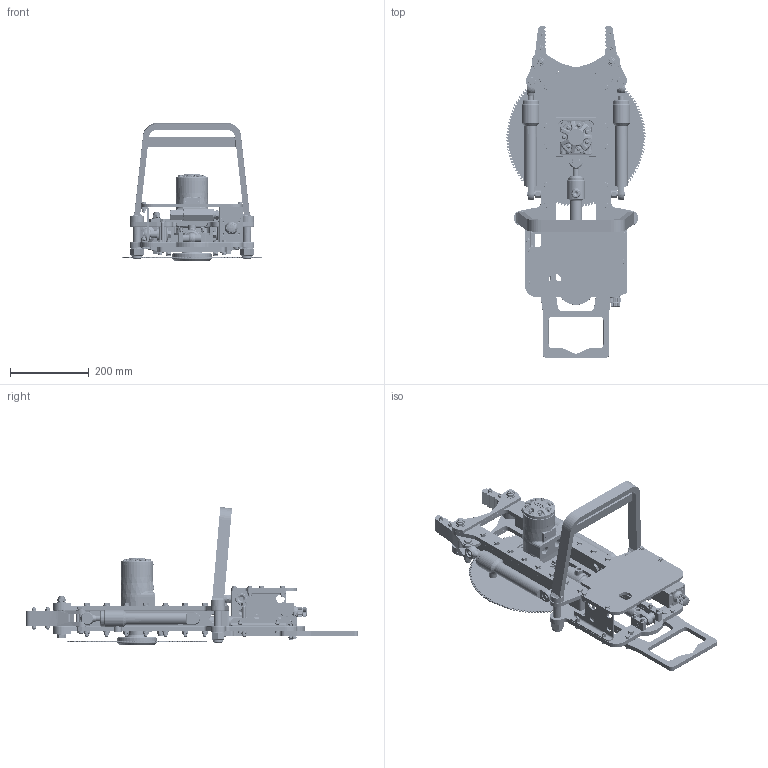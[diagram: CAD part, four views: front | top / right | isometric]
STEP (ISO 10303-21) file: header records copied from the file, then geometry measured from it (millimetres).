
FILE_DESCRIPTION(/* description */ (''),/* implementation_level */ '2;1');
FILE_NAME(/* name */ 'IKM-1070377 - SUBSEA SAW - 30-120MM_SOLID.stp',/* time_stamp */ '2025-08-20T12:00:49+02:00',/* author */ ('KateB'),/* organization */ (''),/* preprocessor_version */ 'ST-DEVELOPER v19.2',/* originating_system */ 'Autodesk Inventor 2023',/* authorisation */ '');
FILE_SCHEMA (('CONFIG_CONTROL_DESIGN'));
Products named in the file (1): IKM-1070377-SUBSEA SAW -  Ø30-Ø120MM_SOLID
Bounding box: 355 x 845.12 x 350.95 mm (x, y, z)
Volume: 6701634.7 mm3; surface area: 1351754.9 mm2
Topology: 3 solids, 73 shells, 6967 faces, 17446 edges, 11111 vertices
Faces by surface type: plane 3524, cylinder 2011, cone 720, torus 418, bspline 273, sphere 21
Full cylindrical faces by diameter (mm): 1.7 x4, 2.438 x1, 2.565 x1, 2.921 x1, 3.175 x1, 3.44 x2, 4.134 x4, 4.917 x6, 4.978 x1, 5.4 x4, 6 x39, 6.35 x2, 6.4 x31, 6.5 x4, 6.6 x22, 7 x5, 7.061 x1, 7.323 x17, 7.4 x1, 7.846 x1, 8 x50, 8.1 x44, 8.255 x1, 8.4 x39, 8.88 x19, 8.9 x8, 9.195 x11, 9.525 x9, 10 x14, 10.5 x4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
Entity records: 256109 total; most frequent: CARTESIAN_POINT 93151, ORIENTED_EDGE 34806, DIRECTION 33538, EDGE_CURVE 17403, AXIS2_PLACEMENT_3D 12537, VERTEX_POINT 11111, LINE 8464, VECTOR 8464
